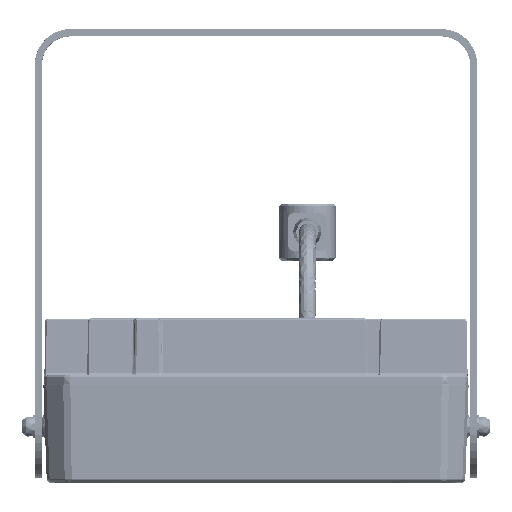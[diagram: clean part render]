
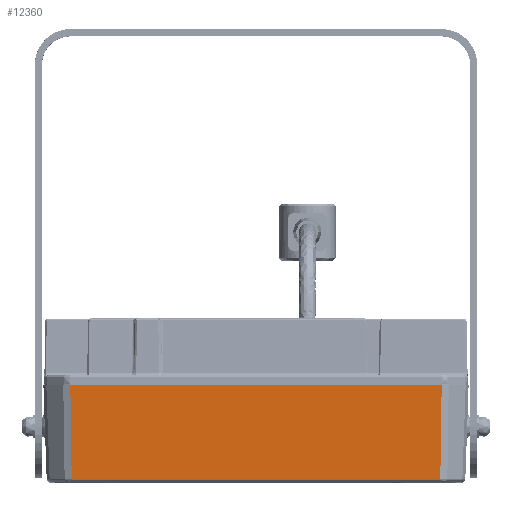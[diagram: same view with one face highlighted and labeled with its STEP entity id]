
A CAD part, top view. The second image highlights one B-rep face of the part: STEP entity #12360.
In plain terms, the highlighted planar face has unit normal (-0.999, 0.035, 0) by its records, which use the part's own axes.
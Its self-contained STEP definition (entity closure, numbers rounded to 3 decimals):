
#12360=ADVANCED_FACE('',(#26092),#217698,.T.);
#26092=FACE_OUTER_BOUND('',#40577,.T.);
#40577=EDGE_LOOP('',(#95518,#95519,#95520,#95521));
#95518=ORIENTED_EDGE('',*,*,#139640,.T.);
#95519=ORIENTED_EDGE('',*,*,#137143,.T.);
#95520=ORIENTED_EDGE('',*,*,#139641,.F.);
#95521=ORIENTED_EDGE('',*,*,#139636,.T.);
#137143=EDGE_CURVE('',#198316,#198315,#175261,.T.);
#139636=EDGE_CURVE('',#199848,#199846,#177162,.T.);
#139640=EDGE_CURVE('',#199846,#198316,#177166,.T.);
#139641=EDGE_CURVE('',#199848,#198315,#177167,.T.);
#175261=B_SPLINE_CURVE_WITH_KNOTS('',1,(#415271,#415272),.UNSPECIFIED.,
 .F.,.F.,(2,2),(-130.294,0.),.UNSPECIFIED.);
#177162=B_SPLINE_CURVE_WITH_KNOTS('',1,(#422902,#422903),.UNSPECIFIED.,
 .F.,.F.,(2,2),(-129.34,0.),.UNSPECIFIED.);
#177166=B_SPLINE_CURVE_WITH_KNOTS('',1,(#422918,#422919),.UNSPECIFIED.,
 .F.,.F.,(2,2),(0.,32.982),.UNSPECIFIED.);
#177167=B_SPLINE_CURVE_WITH_KNOTS('',1,(#422920,#422921),.UNSPECIFIED.,
 .F.,.F.,(2,2),(-32.982,0.),.UNSPECIFIED.);
#198315=VERTEX_POINT('',#412304);
#198316=VERTEX_POINT('',#412305);
#199846=VERTEX_POINT('',#413835);
#199848=VERTEX_POINT('',#413837);
#217698=PLANE('',#231401);
#231401=AXIS2_PLACEMENT_3D('',#411026,#242705,$);
#242705=DIRECTION('',(-0.999,0.035,0.));
#411026=CARTESIAN_POINT('',(74.715,37.744,-78.455));
#412304=CARTESIAN_POINT('',(74.59,34.16,-65.147));
#412305=CARTESIAN_POINT('',(74.59,34.16,65.147));
#413835=CARTESIAN_POINT('',(73.439,1.201,64.67));
#413837=CARTESIAN_POINT('',(73.439,1.201,-64.67));
#415271=CARTESIAN_POINT('',(74.59,34.16,65.147));
#415272=CARTESIAN_POINT('',(74.59,34.16,-65.147));
#422902=CARTESIAN_POINT('',(73.439,1.201,-64.67));
#422903=CARTESIAN_POINT('',(73.439,1.201,64.67));
#422918=CARTESIAN_POINT('',(73.439,1.201,64.67));
#422919=CARTESIAN_POINT('',(74.59,34.16,65.147));
#422920=CARTESIAN_POINT('',(73.439,1.201,-64.67));
#422921=CARTESIAN_POINT('',(74.59,34.16,-65.147));
